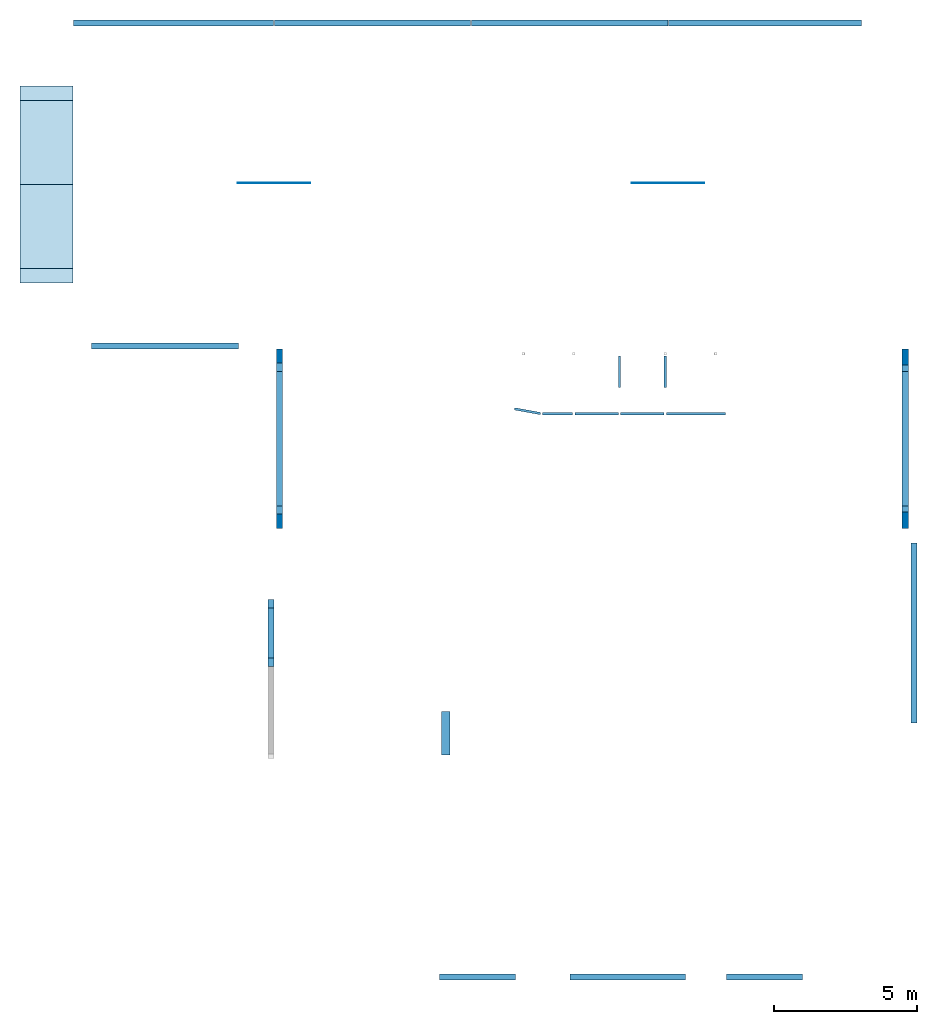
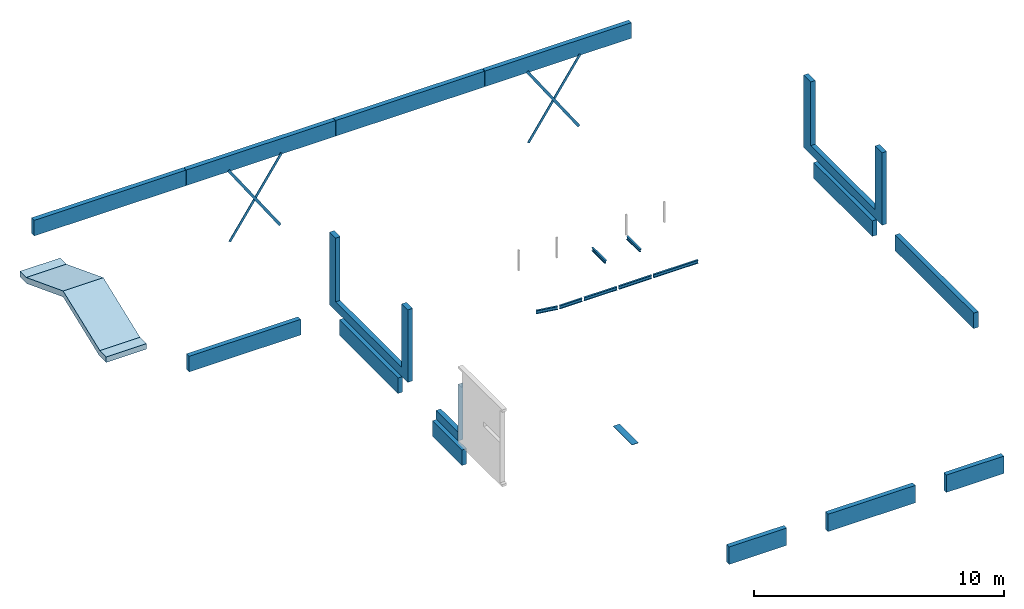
# One storey, part 2 of 3: 24 beams, 3 walls, 1 roof, 3 openings.
"""IFC2X3 building model written with IfcOpenShell, lengths in millimetres."""

from ifc_helpers import new_model, entity, si_unit, converted_unit, derived_unit, direction, frame, frame_2d, origin, origin_2d_with_axis, place, context, subcontext, project, spatial, rectangle, i_section, extrude, clip, halfspace, faceted_brep, material, layer, layer_set, layer_usage, type_object, element, save


model = new_model("IFC2X3")

# Units and contexts
model_context = context("Model", 3, precision=0.01, world=origin(), true_north=direction((6.123031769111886e-17, 1.0)))
body_context = subcontext(model_context, "Body", "Model", "MODEL_VIEW")
ifc_project = project(units=[si_unit("LENGTHUNIT", "METRE", prefix="MILLI"), si_unit("AREAUNIT", "SQUARE_METRE", prefix="MILLI"), si_unit("VOLUMEUNIT", "CUBIC_METRE"), converted_unit("PLANEANGLEUNIT", "DEGREE", entity("IfcPlaneAngleMeasure", 0.017453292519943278), si_unit("PLANEANGLEUNIT", "RADIAN"), dimensions=[0, 0, 0, 0, 0, 0, 0]), si_unit("MASSUNIT", "GRAM", prefix="KILO"), derived_unit("MASSDENSITYUNIT", [(si_unit("MASSUNIT", "GRAM", prefix="KILO"), 1), (si_unit("LENGTHUNIT", "METRE"), -3)]), derived_unit("IONCONCENTRATIONUNIT", [(si_unit("MASSUNIT", "GRAM", prefix="KILO"), 1), (si_unit("LENGTHUNIT", "METRE"), -3)]), derived_unit("MOMENTOFINERTIAUNIT", [(si_unit("LENGTHUNIT", "METRE"), 4)]), si_unit("TIMEUNIT", "SECOND"), si_unit("FREQUENCYUNIT", "HERTZ"), si_unit("THERMODYNAMICTEMPERATUREUNIT", "DEGREE_CELSIUS"), derived_unit("THERMALTRANSMITTANCEUNIT", [(si_unit("MASSUNIT", "GRAM", prefix="KILO"), 1), (si_unit("THERMODYNAMICTEMPERATUREUNIT", "KELVIN"), -1), (si_unit("TIMEUNIT", "SECOND"), -3)]), derived_unit("THERMALCONDUCTANCEUNIT", [(si_unit("MASSUNIT", "GRAM", prefix="KILO"), 1), (si_unit("THERMODYNAMICTEMPERATUREUNIT", "KELVIN"), -1), (si_unit("TIMEUNIT", "SECOND"), -3), (si_unit("LENGTHUNIT", "METRE"), 1)]), derived_unit("VOLUMETRICFLOWRATEUNIT", [(si_unit("LENGTHUNIT", "METRE", prefix="DECI"), 3), (si_unit("TIMEUNIT", "SECOND"), -1)]), derived_unit("MASSFLOWRATEUNIT", [(si_unit("MASSUNIT", "GRAM", prefix="KILO"), 1), (si_unit("TIMEUNIT", "SECOND"), -1)]), derived_unit("ROTATIONALFREQUENCYUNIT", [(si_unit("TIMEUNIT", "SECOND"), -1)]), si_unit("ELECTRICCURRENTUNIT", "AMPERE"), si_unit("ELECTRICVOLTAGEUNIT", "VOLT"), si_unit("POWERUNIT", "WATT"), si_unit("FORCEUNIT", "NEWTON", prefix="KILO"), si_unit("ILLUMINANCEUNIT", "LUX"), si_unit("LUMINOUSFLUXUNIT", "LUMEN"), si_unit("LUMINOUSINTENSITYUNIT", "CANDELA"), si_unit("ENERGYUNIT", "JOULE"), derived_unit("USERDEFINED", [(si_unit("MASSUNIT", "GRAM", prefix="KILO"), -1), (si_unit("LENGTHUNIT", "METRE"), -2), (si_unit("TIMEUNIT", "SECOND"), 3), (si_unit("LUMINOUSFLUXUNIT", "LUMEN"), 1)]), derived_unit("USERDEFINED", [(si_unit("MASSUNIT", "GRAM", prefix="KILO"), 1), (si_unit("TIMEUNIT", "SECOND"), -3), (si_unit("LENGTHUNIT", "METRE"), 3), (si_unit("ELECTRICCURRENTUNIT", "AMPERE"), -2)]), derived_unit("SOUNDPOWERUNIT", [(si_unit("MASSUNIT", "GRAM", prefix="KILO"), 1), (si_unit("TIMEUNIT", "SECOND"), -3), (si_unit("LENGTHUNIT", "METRE"), 2)]), derived_unit("SOUNDPRESSUREUNIT", [(si_unit("MASSUNIT", "GRAM", prefix="KILO"), 1), (si_unit("LENGTHUNIT", "METRE"), -1), (si_unit("TIMEUNIT", "SECOND"), -2)]), derived_unit("LINEARVELOCITYUNIT", [(si_unit("LENGTHUNIT", "METRE"), 1), (si_unit("TIMEUNIT", "SECOND"), -1)]), si_unit("PRESSUREUNIT", "PASCAL"), derived_unit("USERDEFINED", [(si_unit("MASSUNIT", "GRAM", prefix="KILO"), 1), (si_unit("LENGTHUNIT", "METRE"), -2), (si_unit("TIMEUNIT", "SECOND"), -2)]), derived_unit("LINEARFORCEUNIT", [(si_unit("MASSUNIT", "GRAM", prefix="KILO"), 1), (si_unit("TIMEUNIT", "SECOND"), -2)]), derived_unit("PLANARFORCEUNIT", [(si_unit("MASSUNIT", "GRAM", prefix="KILO"), 1), (si_unit("LENGTHUNIT", "METRE"), -1), (si_unit("TIMEUNIT", "SECOND"), -2)]), derived_unit("SPECIFICHEATCAPACITYUNIT", [(si_unit("THERMODYNAMICTEMPERATUREUNIT", "KELVIN"), -1), (si_unit("LENGTHUNIT", "METRE"), 2), (si_unit("TIMEUNIT", "SECOND"), -2)]), derived_unit("HEATFLUXDENSITYUNIT", [(si_unit("MASSUNIT", "GRAM", prefix="KILO"), 1), (si_unit("TIMEUNIT", "SECOND"), -3)]), derived_unit("HEATINGVALUEUNIT", [(si_unit("LENGTHUNIT", "METRE"), 2), (si_unit("TIMEUNIT", "SECOND"), -2)]), derived_unit("VAPORPERMEABILITYUNIT", [(si_unit("LENGTHUNIT", "METRE"), -1), (si_unit("TIMEUNIT", "SECOND"), 1)]), derived_unit("DYNAMICVISCOSITYUNIT", [(si_unit("MASSUNIT", "GRAM", prefix="KILO"), 1), (si_unit("TIMEUNIT", "SECOND"), -1), (si_unit("LENGTHUNIT", "METRE"), -1)]), derived_unit("THERMALEXPANSIONCOEFFICIENTUNIT", [(si_unit("THERMODYNAMICTEMPERATUREUNIT", "KELVIN"), -1)]), derived_unit("MODULUSOFELASTICITYUNIT", [(si_unit("MASSUNIT", "GRAM", prefix="KILO"), 1), (si_unit("LENGTHUNIT", "METRE"), -1), (si_unit("TIMEUNIT", "SECOND"), -2)]), derived_unit("ISOTHERMALMOISTURECAPACITYUNIT", [(si_unit("MASSUNIT", "GRAM", prefix="KILO"), -1), (si_unit("LENGTHUNIT", "METRE"), 3)]), derived_unit("MOISTUREDIFFUSIVITYUNIT", [(si_unit("TIMEUNIT", "SECOND"), -1), (si_unit("LENGTHUNIT", "METRE"), 2)]), derived_unit("MASSPERLENGTHUNIT", [(si_unit("MASSUNIT", "GRAM", prefix="KILO"), 1), (si_unit("LENGTHUNIT", "METRE"), -1)]), derived_unit("THERMALRESISTANCEUNIT", [(si_unit("MASSUNIT", "GRAM", prefix="KILO"), -1), (si_unit("TIMEUNIT", "SECOND"), 3), (si_unit("THERMODYNAMICTEMPERATUREUNIT", "KELVIN"), 1)]), derived_unit("ACCELERATIONUNIT", [(si_unit("LENGTHUNIT", "METRE"), 1), (si_unit("TIMEUNIT", "SECOND"), -2)]), derived_unit("ANGULARVELOCITYUNIT", [(si_unit("TIMEUNIT", "SECOND"), -1), (si_unit("PLANEANGLEUNIT", "RADIAN"), 1)]), derived_unit("LINEARSTIFFNESSUNIT", [(si_unit("MASSUNIT", "GRAM", prefix="KILO"), 1), (si_unit("TIMEUNIT", "SECOND"), -2)]), derived_unit("WARPINGCONSTANTUNIT", [(si_unit("LENGTHUNIT", "METRE"), 6)]), derived_unit("LINEARMOMENTUNIT", [(si_unit("MASSUNIT", "GRAM", prefix="KILO"), 1), (si_unit("LENGTHUNIT", "METRE"), 1), (si_unit("TIMEUNIT", "SECOND"), -2)]), derived_unit("TORQUEUNIT", [(si_unit("MASSUNIT", "GRAM", prefix="KILO"), 1), (si_unit("LENGTHUNIT", "METRE"), 2), (si_unit("TIMEUNIT", "SECOND"), -2)])], contexts=[model_context])

# Site, building, storey
site_placement = place(None, origin())
site = spatial("IfcSite", under=ifc_project, at=site_placement, Name="Default", CompositionType="ELEMENT")
building_placement = place(site_placement, origin())
building = spatial("IfcBuilding", under=site, at=building_placement, CompositionType="ELEMENT")
storey_placement = place(building_placement, frame((0.0, 0.0, 2550.0)))
storey = spatial("IfcBuildingStorey", under=building, at=storey_placement, Name="KDV V1 1e verd. (bk ruwe vloer)", CompositionType="ELEMENT", Elevation=2550.000000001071)

# Beams
ifc_material_1 = material(Name="Beton, prefab")
beam_type_1 = type_object("IfcBeamType", Name="btl_prefab - RBeam:214x762", PredefinedType="NOTDEFINED")
beam_1_placement = place(storey_placement, frame((7018.024359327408, 30746.50985358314, 920.0), z_axis=(0.0, 0.0, 1.0), x_axis=(0.0, -1.0, 0.0)))
element("IfcBeam", 1, at=beam_1_placement, inside=storey, type_object=beam_type_1, material=ifc_material_1, Name="btl_prefab - RBeam:214x762", ObjectType="btl_prefab - RBeam:214x762", context=body_context, shape_type="SweptSolid", body=[
    extrude(rectangle(XDim=762.0, YDim=214.00000000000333, at=origin_2d_with_axis()), frame((-300.0, 0.0, -381.0), z_axis=(1.0, 0.0, 0.0), x_axis=(0.0, 0.0, -1.0)), (0.0, 0.0, 1.0), 4704.200308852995),
])
beam_2_placement = place(storey_placement, frame((6718.000781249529, 22771.135781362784, 920.0), z_axis=(0.0, 0.0, 1.0), x_axis=(0.0, -1.0, 0.0)))
element("IfcBeam", 2, at=beam_2_placement, inside=storey, type_object=beam_type_1, material=ifc_material_1, Name="btl_prefab - RBeam:214x762", ObjectType="btl_prefab - RBeam:214x762", context=body_context, shape_type="SweptSolid", body=[
    extrude(rectangle(XDim=762.0, YDim=214.00000000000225, at=frame_2d((5.400124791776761e-13, -5.400124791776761e-13), x_axis=(1.0, 0.0))), frame((-300.0, 0.0, -381.0), z_axis=(1.0, 0.0, 0.0), x_axis=(0.0, 0.0, -1.0)), (0.0, 0.0, 1.0), 2360.0854533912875),
])
beam_3_placement = place(storey_placement, frame((29231.986142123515, 24744.232368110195, 920.0), z_axis=(0.0, 0.0, 1.0), x_axis=(0.0, -1.0, 0.0)))
element("IfcBeam", 3, at=beam_3_placement, inside=storey, type_object=beam_type_1, material=ifc_material_1, Name="btl_prefab - RBeam:214x762", ObjectType="btl_prefab - RBeam:214x762", context=body_context, shape_type="SweptSolid", body=[
    extrude(rectangle(XDim=762.0, YDim=214.00000000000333, at=origin_2d_with_axis()), frame((-300.0, 0.0, -381.0), z_axis=(1.0, 0.0, 0.0), x_axis=(0.0, 0.0, -1.0)), (0.0, 0.0, 1.0), 6300.278333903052),
])
beam_4_placement = place(storey_placement, frame((725.6518038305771, 31937.573165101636, 920.0)))
element("IfcBeam", 4, at=beam_4_placement, inside=storey, type_object=beam_type_1, material=ifc_material_1, Name="btl_prefab - RBeam:214x762", ObjectType="btl_prefab - RBeam:214x762", context=body_context, shape_type="SweptSolid", body=[
    extrude(rectangle(XDim=762.0, YDim=214.00000000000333, at=origin_2d_with_axis()), frame((-300.0, 0.0, -381.0), z_axis=(1.0, 0.0, 0.0), x_axis=(0.0, 0.0, -1.0)), (0.0, 0.0, 1.0), 5159.996607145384),
])
beam_5_placement = place(storey_placement, frame((-214.0, 43251.57316510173, 920.0)))
element("IfcBeam", 5, at=beam_5_placement, inside=storey, type_object=beam_type_1, material=ifc_material_1, Name="btl_prefab - RBeam:214x762", ObjectType="btl_prefab - RBeam:214x762", context=body_context, shape_type="SweptSolid", body=[
    extrude(rectangle(XDim=762.0, YDim=214.00000000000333, at=origin_2d_with_axis()), frame((10.0, 0.0, -381.0), z_axis=(1.0, 0.0, 0.0), x_axis=(0.0, 0.0, -1.0)), (0.0, 0.0, 1.0), 7019.000781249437),
])
beam_6_placement = place(storey_placement, frame((6825.0007812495, 43251.573165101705, 920.0)))
element("IfcBeam", 6, at=beam_6_placement, inside=storey, type_object=beam_type_1, material=ifc_material_1, Name="btl_prefab - RBeam:214x762", ObjectType="btl_prefab - RBeam:214x762", context=body_context, shape_type="SweptSolid", body=[
    extrude(rectangle(XDim=762.0, YDim=214.00000000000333, at=origin_2d_with_axis()), frame((10.0, 0.0, -381.0), z_axis=(1.0, 0.0, 0.0), x_axis=(0.0, 0.0, -1.0)), (0.0, 0.0, 1.0), 6880.000000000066),
])
beam_7_placement = place(storey_placement, frame((13725.000781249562, 43251.573165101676, 920.0)))
element("IfcBeam", 7, at=beam_7_placement, inside=storey, type_object=beam_type_1, material=ifc_material_1, Name="btl_prefab - RBeam:214x762", ObjectType="btl_prefab - RBeam:214x762", context=body_context, shape_type="SweptSolid", body=[
    extrude(rectangle(XDim=762.0, YDim=214.00000000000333, at=origin_2d_with_axis()), frame((10.0, 0.0, -381.0), z_axis=(1.0, 0.0, 0.0), x_axis=(0.0, 0.0, -1.0)), (0.0, 0.0, 1.0), 6879.983872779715),
])
beam_8_placement = place(storey_placement, frame((20624.984654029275, 43251.57316510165, 920.0)))
element("IfcBeam", 8, at=beam_8_placement, inside=storey, type_object=beam_type_1, material=ifc_material_1, Name="btl_prefab - RBeam:214x762", ObjectType="btl_prefab - RBeam:214x762", context=body_context, shape_type="SweptSolid", body=[
    extrude(rectangle(XDim=762.0, YDim=214.00000000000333, at=origin_2d_with_axis()), frame((10.0, 0.0, -381.0), z_axis=(1.0, 0.0, 0.0), x_axis=(0.0, 0.0, -1.0)), (0.0, 0.0, 1.0), 6760.727196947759),
])
beam_9_placement = place(storey_placement, frame((28931.979529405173, 30746.50985358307, 920.0), z_axis=(0.0, 0.0, 1.0), x_axis=(0.0, -1.0, 0.0)))
element("IfcBeam", 9, at=beam_9_placement, inside=storey, type_object=beam_type_1, material=ifc_material_1, Name="btl_prefab - RBeam:214x762", ObjectType="btl_prefab - RBeam:214x762", context=body_context, shape_type="SweptSolid", body=[
    extrude(rectangle(XDim=762.0, YDim=214.00000000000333, at=origin_2d_with_axis()), frame((-300.0, 0.0, -381.0), z_axis=(1.0, 0.0, 0.0), x_axis=(0.0, 0.0, -1.0)), (0.0, 0.0, 1.0), 4704.200308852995),
])
ifc_material_2 = material(Name="Metal - Steel - S235 JRG2 (standaard)")
beam_type_2 = type_object("IfcBeamType", Name="btl_staal - Strip b x h:120x15 Vwvb", PredefinedType="NOTDEFINED")
beam_10_placement = place(storey_placement, frame((5525.000781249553, 37644.573205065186, 973.0), z_axis=(0.8253087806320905, 0.0, -0.564681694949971), x_axis=(0.564681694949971, 0.0, 0.8253087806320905)))
element("IfcBeam", 10, at=beam_10_placement, inside=storey, type_object=beam_type_2, material=ifc_material_2, Name="btl_staal - Strip b x h:120x15 Vwvb", ObjectType="btl_staal - Strip b x h:120x15 Vwvb", context=body_context, shape_type="SweptSolid", body=[
    extrude(rectangle(XDim=120.0000000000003, YDim=15.00000000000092, at=origin_2d_with_axis()), frame((231.86754788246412, 0.0, 0.0), z_axis=(1.0, 0.0, 0.0), x_axis=(0.0, 0.0, -1.0)), (0.0, 0.0, 1.0), 4236.323950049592),
])
beam_11_placement = place(storey_placement, frame((5525.000781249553, 37644.573205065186, 4773.0), z_axis=(0.8253087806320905, 0.0, 0.564681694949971), x_axis=(0.564681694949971, 0.0, -0.8253087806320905)))
element("IfcBeam", 11, at=beam_11_placement, inside=storey, type_object=beam_type_2, material=ifc_material_2, Name="btl_staal - Strip b x h:120x15 Vwvb", ObjectType="btl_staal - Strip b x h:120x15 Vwvb", context=body_context, shape_type="SweptSolid", body=[
    extrude(rectangle(XDim=119.99999999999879, YDim=15.000000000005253, at=frame_2d((-3.055333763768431e-13, -4.331646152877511e-12), x_axis=(1.0, 0.0))), frame((136.1457988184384, 0.0, 0.0), z_axis=(1.0, 0.0, 0.0), x_axis=(0.0, 0.0, -1.0)), (0.0, 0.0, 1.0), 4236.323950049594),
])
beam_12_placement = place(storey_placement, frame((19324.984654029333, 37644.57320506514, 973.0), z_axis=(0.8253087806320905, 0.0, -0.564681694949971), x_axis=(0.564681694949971, 0.0, 0.8253087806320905)))
element("IfcBeam", 12, at=beam_12_placement, inside=storey, type_object=beam_type_2, material=ifc_material_2, Name="btl_staal - Strip b x h:120x15 Vwvb", ObjectType="btl_staal - Strip b x h:120x15 Vwvb", context=body_context, shape_type="SweptSolid", body=[
    extrude(rectangle(XDim=119.99999999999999, YDim=15.00000000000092, at=origin_2d_with_axis()), frame((231.86754788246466, 0.0, 0.0), z_axis=(1.0, 0.0, 0.0), x_axis=(0.0, 0.0, -1.0)), (0.0, 0.0, 1.0), 4236.323950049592),
])
beam_13_placement = place(storey_placement, frame((19324.98465402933, 37644.57320506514, 4773.0), z_axis=(0.8253087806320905, 0.0, 0.564681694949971), x_axis=(0.564681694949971, 0.0, -0.8253087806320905)))
element("IfcBeam", 13, at=beam_13_placement, inside=storey, type_object=beam_type_2, material=ifc_material_2, Name="btl_staal - Strip b x h:120x15 Vwvb", ObjectType="btl_staal - Strip b x h:120x15 Vwvb", context=body_context, shape_type="SweptSolid", body=[
    extrude(rectangle(XDim=119.9999999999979, YDim=15.000000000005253, at=frame_2d((-1.1972645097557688e-12, 0.0), x_axis=(1.0, 0.0))), frame((136.14579881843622, 0.0, 0.0), z_axis=(1.0, 0.0, 0.0), x_axis=(0.0, 0.0, -1.0)), (0.0, 0.0, 1.0), 4236.3239500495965),
])
beam_type_3 = type_object("IfcBeamType", Name="btl_staal - IPE:IPE160", PredefinedType="NOTDEFINED")
beam_14_placement = place(storey_placement, frame((18925.64327036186, 31594.065392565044, -77.4000000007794), z_axis=(0.0, 0.0, 1.0), x_axis=(0.0, -1.0, 0.0)))
element("IfcBeam", 14, at=beam_14_placement, inside=storey, type_object=beam_type_3, material=ifc_material_2, Name="btl_staal - IPE:IPE160", ObjectType="btl_staal - IPE:IPE160", context=body_context, shape_type="SweptSolid", body=[
    clip(extrude(i_section(OverallWidth=82.00000000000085, OverallDepth=159.99999999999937, WebThickness=5.0000000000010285, FlangeThickness=7.400000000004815, at=frame_2d((8.171241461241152e-13, 3.247180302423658e-12), x_axis=(0.0, 1.0))), frame((0.0, 0.0, -80.0), z_axis=(1.0, 0.0, 0.0), x_axis=(0.0, 0.0, -1.0)), (0.0, 0.0, 1.0), 1099.8746481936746), halfspace(frame((1047.5834869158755, 0.0, -160.0), z_axis=(0.9505243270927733, 0.0, -0.3106501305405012), x_axis=(0.0, 1.0, 0.0)), False)),
])
beam_15_placement = place(storey_placement, frame((20526.595059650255, 31594.06539256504, -77.4000000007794), z_axis=(0.0, 0.0, 1.0), x_axis=(0.0, -1.0, 0.0)))
element("IfcBeam", 15, at=beam_15_placement, inside=storey, type_object=beam_type_3, material=ifc_material_2, Name="btl_staal - IPE:IPE160", ObjectType="btl_staal - IPE:IPE160", context=body_context, shape_type="SweptSolid", body=[
    clip(extrude(i_section(OverallWidth=81.99999999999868, OverallDepth=159.99999999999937, WebThickness=4.999999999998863, FlangeThickness=7.400000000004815, at=frame_2d((8.171241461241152e-13, -4.330757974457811e-12), x_axis=(0.0, 1.0))), frame((0.0, 0.0, -80.0), z_axis=(1.0, 0.0, 0.0), x_axis=(0.0, 0.0, -1.0)), (0.0, 0.0, 1.0), 1099.874648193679), halfspace(frame((1047.5834869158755, 0.0, -160.0), z_axis=(0.9505243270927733, 0.0, -0.3106501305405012), x_axis=(0.0, 1.0, 0.0)), False)),
])
beam_16_placement = place(storey_placement, frame((15251.499158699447, 29740.163416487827, -754.7798600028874), z_axis=(0.0, 0.0, 1.0), x_axis=(0.9838619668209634, -0.17892912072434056, 0.0)))
element("IfcBeam", 16, at=beam_16_placement, inside=storey, type_object=beam_type_3, material=ifc_material_2, Name="btl_staal - IPE:IPE160", ObjectType="btl_staal - IPE:IPE160", context=body_context, shape_type="SweptSolid", body=[
    extrude(i_section(OverallWidth=81.99999999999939, OverallDepth=159.99999999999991, WebThickness=4.99999999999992, FlangeThickness=7.400000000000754, at=frame_2d((0.0, 6.775024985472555e-12), x_axis=(0.0, 1.0))), frame((0.0, 0.0, -80.0), z_axis=(1.0, 0.0, 0.0), x_axis=(0.0, 0.0, -1.0)), (0.0, 0.0, 1.0), 918.0521116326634),
])
beam_17_placement = place(storey_placement, frame((20536.62112670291, 29568.561065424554, -754.7798600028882)))
element("IfcBeam", 17, at=beam_17_placement, inside=storey, type_object=beam_type_3, material=ifc_material_2, Name="btl_staal - IPE:IPE160", ObjectType="btl_staal - IPE:IPE160", context=body_context, shape_type="SweptSolid", body=[
    extrude(i_section(OverallWidth=82.00000000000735, OverallDepth=159.9999999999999, WebThickness=4.999999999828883, FlangeThickness=7.400000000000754, at=frame_2d((2.7000623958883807e-13, 0.0), x_axis=(0.0, 1.0))), frame((30.97393294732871, 0.0, -80.0), z_axis=(1.0, 0.0, 0.0), x_axis=(0.0, 0.0, -1.0)), (0.0, 0.0, 1.0), 2064.7655573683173),
])
beam_18_placement = place(storey_placement, frame((18927.247388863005, 29568.561065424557, -754.779860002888)))
element("IfcBeam", 18, at=beam_18_placement, inside=storey, type_object=beam_type_3, material=ifc_material_2, Name="btl_staal - IPE:IPE160", ObjectType="btl_staal - IPE:IPE160", context=body_context, shape_type="SweptSolid", body=[
    extrude(i_section(OverallWidth=82.00000000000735, OverallDepth=159.9999999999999, WebThickness=4.999999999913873, FlangeThickness=7.400000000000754, at=frame_2d((2.7000623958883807e-13, 4.330757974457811e-12), x_axis=(0.0, 1.0))), frame((39.39588149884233, 0.0, -80.0), z_axis=(1.0, 0.0, 0.0), x_axis=(0.0, 0.0, -1.0)), (0.0, 0.0, 1.0), 1518.9517892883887),
])
beam_19_placement = place(storey_placement, frame((17324.69148107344, 29568.561065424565, -754.7798600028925)))
element("IfcBeam", 19, at=beam_19_placement, inside=storey, type_object=beam_type_3, material=ifc_material_2, Name="btl_staal - IPE:IPE160", ObjectType="btl_staal - IPE:IPE160", context=body_context, shape_type="SweptSolid", body=[
    extrude(i_section(OverallWidth=82.00000000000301, OverallDepth=159.9999999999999, WebThickness=4.999999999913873, FlangeThickness=7.400000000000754, at=frame_2d((5.400124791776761e-13, 0.0), x_axis=(0.0, 1.0))), frame((41.0, 0.0, -80.0), z_axis=(1.0, 0.0, 0.0), x_axis=(0.0, 0.0, -1.0)), (0.0, 0.0, 1.0), 1518.9517892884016),
])
beam_20_placement = place(storey_placement, frame((16236.746567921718, 29568.561065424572, -754.7798600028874)))
element("IfcBeam", 20, at=beam_20_placement, inside=storey, type_object=beam_type_3, material=ifc_material_2, Name="btl_staal - IPE:IPE160", ObjectType="btl_staal - IPE:IPE160", context=body_context, shape_type="SweptSolid", body=[
    extrude(i_section(OverallWidth=82.00000000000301, OverallDepth=159.9999999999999, WebThickness=4.999999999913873, FlangeThickness=7.400000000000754, at=frame_2d((0.0, 4.330757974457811e-12), x_axis=(0.0, 1.0))), frame((0.0, 0.0, -80.0), z_axis=(1.0, 0.0, 0.0), x_axis=(0.0, 0.0, -1.0)), (0.0, 0.0, 1.0), 1046.9449131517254),
])
beam_type_4 = type_object("IfcBeamType", Name="btl_staal - Strip b x h:300x15 onderplaat", PredefinedType="NOTDEFINED")
beam_21_placement = place(storey_placement, frame((12836.32574244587, 19139.74979440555, 920.0), z_axis=(0.0, 0.0, 1.0), x_axis=(0.0, -1.0, 0.0)))
element("IfcBeam", 21, at=beam_21_placement, inside=storey, type_object=beam_type_4, material=ifc_material_2, Name="btl_staal - Strip b x h:300x15 onderplaat", ObjectType="btl_staal - Strip b x h:300x15 onderplaat", context=body_context, shape_type="SweptSolid", body=[
    extrude(rectangle(XDim=14.999999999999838, YDim=300.0000000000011, at=frame_2d((1.0826894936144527e-12, 1.0942358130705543e-12), x_axis=(1.0, 0.0))), frame((0.0, 0.0, -7.500000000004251), z_axis=(1.0, 0.0, 0.0), x_axis=(0.0, 0.0, -1.0)), (0.0, 0.0, 1.0), 1523.8947813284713),
])
beam_type_5 = type_object("IfcBeamType", Name="btl_prefab - RBeam:214x850", PredefinedType="NOTDEFINED")
beam_22_placement = place(storey_placement, frame((12825.96458732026, 9844.605013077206, 730.0)))
element("IfcBeam", 22, at=beam_22_placement, inside=storey, type_object=beam_type_5, material=ifc_material_1, Name="btl_prefab - RBeam:214x850", ObjectType="btl_prefab - RBeam:214x850", context=body_context, shape_type="SweptSolid", body=[
    extrude(rectangle(XDim=849.9999999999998, YDim=214.00000000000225, at=frame_2d((1.4210854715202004e-13, 1.1368683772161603e-11), x_axis=(1.0, 0.0))), frame((-200.0, 0.0, -425.0), z_axis=(1.0, 0.0, 0.0), x_axis=(0.0, 0.0, -1.0)), (0.0, 0.0, 1.0), 2655.000000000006),
])
beam_23_placement = place(storey_placement, frame((17390.511060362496, 9844.605013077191, 730.0)))
element("IfcBeam", 23, at=beam_23_placement, inside=storey, type_object=beam_type_5, material=ifc_material_1, Name="btl_prefab - RBeam:214x850", ObjectType="btl_prefab - RBeam:214x850", context=body_context, shape_type="SweptSolid", body=[
    extrude(rectangle(XDim=849.9999999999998, YDim=214.00000000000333, at=frame_2d((1.4210854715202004e-13, 1.7330137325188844e-11), x_axis=(1.0, 0.0))), frame((-200.0, 0.0, -425.0), z_axis=(1.0, 0.0, 0.0), x_axis=(0.0, 0.0, -1.0)), (0.0, 0.0, 1.0), 4040.000000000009),
])
beam_24_placement = place(storey_placement, frame((22865.209043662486, 9844.605013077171, 730.0)))
element("IfcBeam", 24, at=beam_24_placement, inside=storey, type_object=beam_type_5, material=ifc_material_1, Name="btl_prefab - RBeam:214x850", ObjectType="btl_prefab - RBeam:214x850", context=body_context, shape_type="SweptSolid", body=[
    extrude(rectangle(XDim=849.9999999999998, YDim=214.00000000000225, at=frame_2d((1.4210854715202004e-13, 1.2448708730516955e-11), x_axis=(1.0, 0.0))), frame((-200.0, 0.0, -425.0), z_axis=(1.0, 0.0, 0.0), x_axis=(0.0, 0.0, -1.0)), (0.0, 0.0, 1.0), 2660.0000000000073),
])

# Wall, opening
ifc_material_3 = material(Name="Kalkzandsteen, lijmwerk CS12")
ifc_layer_1 = layer(ifc_material_3, 214.0)
ifc_layer_set_1 = layer_set([ifc_layer_1], Name="Basic Wall:bt_kzst 214")
ifc_layer_usage = layer_usage(ifc_layer_set_1, "AXIS2", "POSITIVE", -107.0)
wall_type = type_object("IfcWallType", Name="Basic Wall:bt_kzst 214", PredefinedType="STANDARD", material=ifc_layer_set_1)
wall_1_placement = place(storey_placement, frame((6718.00078124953, 22771.135781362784, 1180.0), z_axis=(0.0, 0.0, 1.0), x_axis=(0.0, -1.0, 0.0)))
wall_1 = element("IfcWallStandardCase", 25, at=wall_1_placement, inside=storey, type_object=wall_type, material=ifc_layer_usage, Name="Basic Wall:bt_kzst 214", ObjectType="Basic Wall:bt_kzst 214", context=body_context, shape_type="SweptSolid", body=[
    extrude(rectangle(XDim=1760.0854533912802, YDim=214.00000000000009, at=frame_2d((880.0427266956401, -6.323830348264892e-13), x_axis=(-1.0, 0.0))), origin(), (0.0, 0.0, 1.0), 2777.9999999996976),
])
opening_1_placement = place(wall_1_placement, origin())
element("IfcOpeningElement", 26, at=opening_1_placement, cuts=wall_1, Name="Basic Wall:bt_kzst 214", ObjectType="Opening", context=body_context, shape_type="SweptSolid", body=[
    extrude(rectangle(XDim=2348.000000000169, YDim=1760.092701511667, at=frame_2d((-5.684341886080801e-13, -2.1600499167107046e-12), x_axis=(1.0, 0.0))), frame((878.4183325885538, -1417.0, 1604.0), z_axis=(0.0, 1.0, 0.0), x_axis=(0.0, 0.0, -1.0)), (0.0, 0.0, 1.0), 3048.0),
])

wall_2_placement = place(storey_placement, frame((7018.0243593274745, 31830.57320506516, 1180.0), z_axis=(0.0, 0.0, 1.0), x_axis=(0.0, -1.0, 0.0)))
wall_2 = element("IfcWallStandardCase", 27, at=wall_2_placement, inside=storey, type_object=wall_type, material=ifc_layer_usage, Name="Basic Wall:bt_kzst 214", ObjectType="Basic Wall:bt_kzst 214", context=body_context, shape_type="SweptSolid", body=[
    extrude(rectangle(XDim=6271.99538690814, YDim=214.00000000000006, at=frame_2d((3135.9976934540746, -5.115907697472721e-13), x_axis=(-1.0, 0.0))), origin(), (0.0, 0.0, 1.0), 3540.0000000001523),
])
opening_2_placement = place(wall_2_placement, frame((31830.57320506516, -7018.0243593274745, 0.0), z_axis=(0.0, 0.0, 1.0), x_axis=(0.0, 1.0, 0.0)))
element("IfcOpeningElement", 28, at=opening_2_placement, cuts=wall_2, Name="Basic Wall:bt_kzst 214", ObjectType="Opening", context=body_context, shape_type="SweptSolid", body=[
    extrude(rectangle(XDim=3110.000000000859, YDim=5289.646026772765, at=frame_2d((0.0, -2.2737367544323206e-12), x_axis=(1.0, 0.0))), frame((5601.024359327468, 28695.172268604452, 1985.0), z_axis=(1.0, 0.0, 0.0), x_axis=(0.0, 0.0, -1.0)), (0.0, 0.0, 1.0), 3048.0),
])

wall_3_placement = place(storey_placement, frame((28931.982962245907, 31830.573205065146, 1180.0), z_axis=(0.0, 0.0, 1.0), x_axis=(0.0, -1.0, 0.0)))
wall_3 = element("IfcWallStandardCase", 29, at=wall_3_placement, inside=storey, type_object=wall_type, material=ifc_layer_usage, Name="Basic Wall:bt_kzst 214", ObjectType="Basic Wall:bt_kzst 214", context=body_context, shape_type="SweptSolid", body=[
    extrude(rectangle(XDim=6271.995386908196, YDim=214.00000000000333, at=frame_2d((3135.997693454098, 1.1084466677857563e-12), x_axis=(-1.0, 0.0))), origin(), (0.0, 0.0, 1.0), 3540.0000000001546),
])
opening_3_placement = place(wall_3_placement, frame((31830.573205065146, -28931.982962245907, 0.0), z_axis=(0.0, 0.0, 1.0), x_axis=(0.0, 1.0, 0.0)))
element("IfcOpeningElement", 30, at=opening_3_placement, cuts=wall_3, Name="Basic Wall:bt_kzst 214", ObjectType="Opening", context=body_context, shape_type="SweptSolid", body=[
    extrude(rectangle(XDim=3110.000000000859, YDim=5150.25144660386, at=frame_2d((0.0, 2.2737367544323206e-12), x_axis=(1.0, 0.0))), frame((27514.982962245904, 28695.961997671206, 1985.0), z_axis=(1.0, 0.0, 0.0), x_axis=(0.0, 0.0, -1.0)), (0.0, 0.0, 1.0), 3048.0),
])

# Roof
ifc_material_4 = material(Name="Wood - DAK plaatmateriaal buitenzijde")
ifc_layer_2 = layer(ifc_material_4, 20.0)
ifc_material_5 = material(Name="Wood - DAK kern")
ifc_layer_3 = layer(ifc_material_5, 180.0)
ifc_material_6 = material(Name="Wood - DAK plaatmateriaal binnenzijde")
ifc_layer_4 = layer(ifc_material_6, 70.0)
ifc_layer_set_2 = layer_set([ifc_layer_2, ifc_layer_3, ifc_layer_4], Name="Basic Roof:bt_kapconstructie d=467")
type_product = type_object("IfcTypeProduct", Name="Basic Roof:bt_kapconstructie d=467")
roof_placement = place(storey_placement, frame((-2070.8227449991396, 34143.93791289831, 93.33630076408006)))
element("IfcRoof", 31, at=roof_placement, inside=storey, type_object=type_product, material=ifc_layer_set_2, Name="Basic Roof:bt_kapconstructie d=467", ObjectType="Basic Roof:bt_kapconstructie d=467", ShapeType="NOTDEFINED", context=body_context, shape_type="Brep", body=[
    faceted_brep([(1856.8227449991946, 0.0, 270.0), (1856.8227449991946, 0.0, 0.0), (1856.8227449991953, 559.7939574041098, 0.0), (1856.8227449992, 3450.5222322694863, 1111.3246987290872), (1856.8227449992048, 6350.4047974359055, 0.0), (1856.8227449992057, 6900.36927601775, 0.0), (1856.8227449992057, 6900.36927601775, 270.0), (1856.8227449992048, 6400.369276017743, 270.0), (1856.8227449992, 3450.369276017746, 1400.5312500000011), (1856.8227449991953, 509.68177601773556, 270.0), (0.0, 0.0, 270.0), (0.0, 509.6817760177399, 270.0), (0.0, 3450.3692760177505, 1400.5312500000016), (0.0, 6400.369276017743, 270.0), (0.0, 6900.36927601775, 270.0), (0.0, 6900.36927601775, 0.0), (0.0, 6350.4047974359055, 0.0), (0.0, 3450.522232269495, 1111.3246987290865), (0.0, 559.7939574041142, 0.0), (0.0, 0.0, 0.0)], [[[0, 1, 2, 3, 4, 5, 6, 7, 8, 9]], [[10, 11, 12, 13, 14, 15, 16, 17, 18, 19]], [[11, 10, 0, 9]], [[12, 11, 9, 8]], [[13, 12, 8, 7]], [[14, 13, 7, 6]], [[15, 14, 6, 5]], [[16, 15, 5, 4]], [[17, 16, 4, 3]], [[18, 17, 3, 2]], [[19, 18, 2, 1]], [[10, 19, 1, 0]]]),
])

save(model, "model.ifc")
